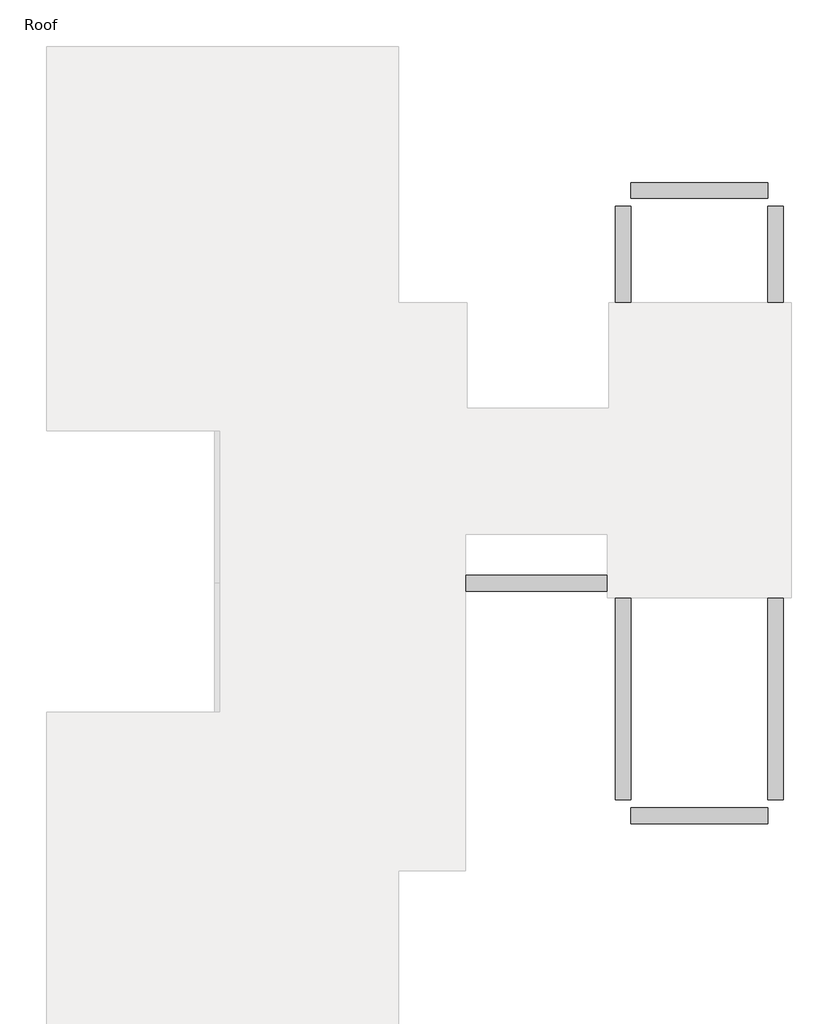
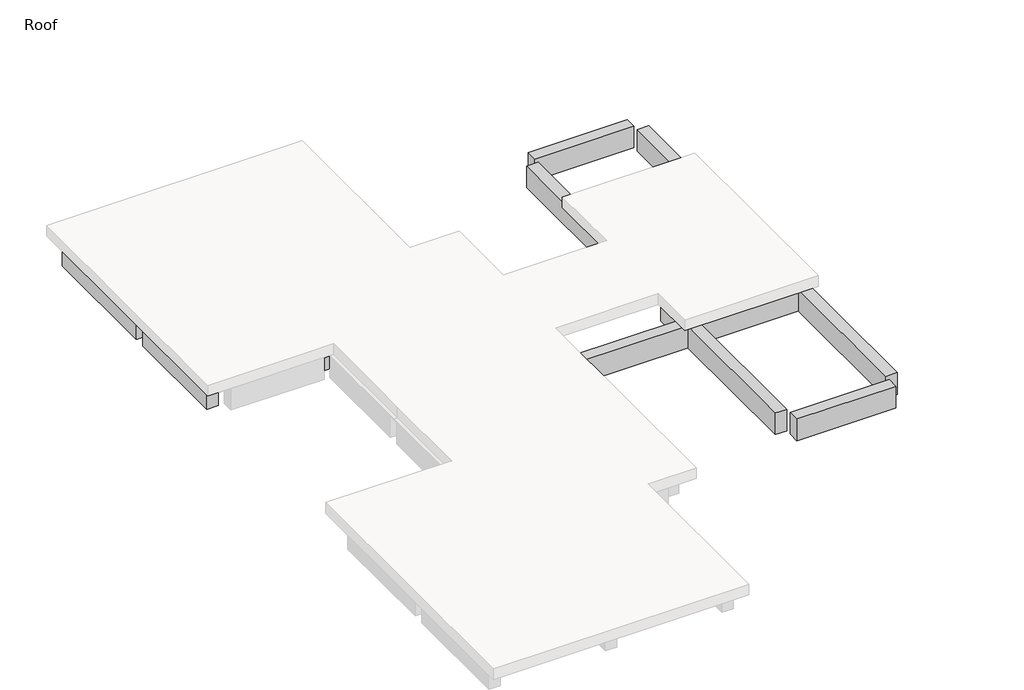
# One storey, part 2 of 2: 25 beams.
"""IFC4 building model written with IfcOpenShell, lengths in millimetres."""

import ifcopenshell
import ifcopenshell.guid

model = None  # the IFC model being written
_history = None  # IfcOwnerHistory: only IFC2X3 demands one
_inside = {}  # id of a spatial element -> (the spatial element, [elements in it])
_under = {}  # id of a project, library or spatial element -> (it, [spatial elements below it])
_declared = {}  # id of a project -> (the project, [libraries it declares])
_typed = {}  # id of a type object -> (the type object, [elements of that type])
_made_of = {}  # id of a material, layer set ... -> (it, [elements and type objects made of it])


def new_model(schema):
    """Start an empty IFC model of exactly this schema.

    Asked for "IFC4X3", IfcOpenShell would pick the latest addendum, in which some entities
    have other attributes; the version numbers below select the first issue.
    IFC2X3 requires an IfcOwnerHistory on every rooted entity: one is made here for all.
    """
    global model, _history
    if schema == "IFC4X3":
        model = ifcopenshell.file(schema_version=(4, 3, 0, 0))
    else:
        model = ifcopenshell.file(schema=schema)
    _inside.clear()
    _under.clear()
    _declared.clear()
    _typed.clear()
    _made_of.clear()
    _history = None
    if model.schema == "IFC2X3":
        org = make("IfcOrganization", Name="unknown")
        user = make(
            "IfcPersonAndOrganization",
            ThePerson=make("IfcPerson", FamilyName="unknown"),
            TheOrganization=org,
        )
        app = make(
            "IfcApplication",
            ApplicationDeveloper=org,
            Version="unknown",
            ApplicationFullName="unknown",
            ApplicationIdentifier="unknown",
        )
        _history = make(
            "IfcOwnerHistory",
            OwningUser=user,
            OwningApplication=app,
            ChangeAction="ADDED",
            CreationDate=0,
        )
    return model


def make(cls, **values):
    """One entity of the class cls with the attributes given. An attribute that is None is left unset."""
    return model.create_entity(
        cls, **{name: value for name, value in values.items() if value is not None}
    )


def rooted(cls, **values):
    """An entity with a GlobalId (a new one), such as an element, a storey or a relation."""
    return make(cls, GlobalId=ifcopenshell.guid.new(), OwnerHistory=_history, **values)


def si_unit(unit_type, name, prefix=None):
    """IfcSIUnit, for example si_unit("LENGTHUNIT", "METRE", prefix="MILLI")."""
    return make("IfcSIUnit", UnitType=unit_type, Prefix=prefix, Name=name)


def assignment(units):
    """IfcUnitAssignment: the units of a project."""
    return None if units is None else make("IfcUnitAssignment", Units=units)


def point(xyz):
    """IfcCartesianPoint."""
    return None if xyz is None else make("IfcCartesianPoint", Coordinates=xyz)


def direction(xyz):
    """IfcDirection."""
    return None if xyz is None else make("IfcDirection", DirectionRatios=xyz)


def frame(location, z_axis=None, x_axis=None):
    """IfcAxis2Placement3D, a coordinate frame: its origin and axes. An axis left out is left unset."""
    return make(
        "IfcAxis2Placement3D",
        Location=point(location),
        Axis=direction(z_axis),
        RefDirection=direction(x_axis),
    )


def origin():
    """The frame at (0, 0, 0) with its axes left unset."""
    return frame((0.0, 0.0, 0.0))


def place(relative_to, where):
    """IfcLocalPlacement: puts the frame where relative to a parent placement (None: the world)."""
    return make(
        "IfcLocalPlacement", PlacementRelTo=relative_to, RelativePlacement=where
    )


def context(
    kind, dimensions, precision=None, world=None, true_north=None, identifier=None
):
    """IfcGeometricRepresentationContext, for example the 3D "Model" context."""
    return make(
        "IfcGeometricRepresentationContext",
        ContextIdentifier=identifier,
        ContextType=kind,
        CoordinateSpaceDimension=dimensions,
        Precision=precision,
        WorldCoordinateSystem=world,
        TrueNorth=true_north,
    )


def project(units=None, contexts=None):
    """IfcProject with its units and contexts."""
    return rooted(
        "IfcProject",
        Name="project",
        RepresentationContexts=contexts,
        UnitsInContext=assignment(units),
    )


def spatial(cls, under=None, at=None, **own):
    """A site, building, storey or space (cls), placed at a placement, below another one or the project."""
    s = rooted(cls, ObjectPlacement=at, **own)
    if under is not None:
        _under.setdefault(under.id(), (under, []))[1].append(s)
    return s


def polyline(points):
    """IfcPolyline through the points."""
    return make("IfcPolyline", Points=[point(p) for p in points])


def outline(outer, holes=None, kind="AREA"):
    """IfcArbitraryClosedProfileDef: a profile drawn as a closed curve; with holes, ...WithVoids."""
    if holes is None:
        return make("IfcArbitraryClosedProfileDef", ProfileType=kind, OuterCurve=outer)
    return make(
        "IfcArbitraryProfileDefWithVoids",
        ProfileType=kind,
        OuterCurve=outer,
        InnerCurves=holes,
    )


def extrude(swept, where, along, depth):
    """IfcExtrudedAreaSolid: the profile swept, set in the frame where, extruded along a direction by depth."""
    return make(
        "IfcExtrudedAreaSolid",
        SweptArea=swept,
        Position=where,
        ExtrudedDirection=direction(along),
        Depth=depth,
    )


def faces_of(points, faces, orient=None, outer=None):
    """IfcFace entities. A face is a list of loops; a loop is a list of indices into points, from 0.

    orient and outer hold one flag for each loop. By default every Orientation is true, the
    first loop of a face is its IfcFaceOuterBound and the others are IfcFaceBound.
    """
    made = []
    for i, loops in enumerate(faces):
        bounds = []
        for j, loop in enumerate(loops):
            is_outer = j == 0 if outer is None else outer[i][j]
            bounds.append(
                make(
                    "IfcFaceOuterBound" if is_outer else "IfcFaceBound",
                    Bound=make("IfcPolyLoop", Polygon=[points[k] for k in loop]),
                    Orientation=True if orient is None else orient[i][j],
                )
            )
        made.append(make("IfcFace", Bounds=bounds))
    return made


def faceted_brep(points, faces, orient=None, outer=None, voids=None):
    """IfcFacetedBrep: a solid bounded by flat faces; with voids (closed shells), ...WithVoids."""
    shared = [point(p) for p in points]
    hull = make("IfcClosedShell", CfsFaces=faces_of(shared, faces, orient, outer))
    if voids is None:
        return make("IfcFacetedBrep", Outer=hull)
    return make(
        "IfcFacetedBrepWithVoids",
        Outer=hull,
        Voids=[
            make(cls, CfsFaces=faces_of(shared, fs, o, b)) for cls, fs, o, b in voids
        ],
    )


def shape(context_of_items, identifier, shape_type, items):
    """IfcShapeRepresentation: the items that make up one representation, for example the "Body"."""
    return make(
        "IfcShapeRepresentation",
        ContextOfItems=context_of_items,
        RepresentationIdentifier=identifier,
        RepresentationType=shape_type,
        Items=items,
    )


def made_of(thing, what):
    """Note that an element or type object is made of a material, layer set ...; save() writes the relation."""
    if what is not None:
        _made_of.setdefault(what.id(), (what, []))[1].append(thing)
    return thing


def element(
    cls,
    number,
    at=None,
    inside=None,
    cuts=None,
    type_object=None,
    material=None,
    context=None,
    identifier="Body",
    shape_type=None,
    held_by="IfcProductDefinitionShape",
    body=None,
    shapes=None,
    **own,
):
    """One element of the class cls, such as IfcWall. Its Tag is "e" and its number.

    at: its placement. inside: the storey or other place that contains it. cuts: it is an
    opening in that element (IfcRelVoidsElement). A single representation is given by context,
    identifier, shape_type and body (its items); several are given by shapes. held_by: the class
    of the entity that holds the representations. save() writes the other relations.
    """
    e = rooted(cls, Tag="e%d" % number, ObjectPlacement=at, **own)
    if body is not None:
        shapes = [shape(context, identifier, shape_type, body)]
    if shapes is not None:
        e.Representation = make(held_by, Representations=shapes)
    if inside is not None:
        _inside.setdefault(inside.id(), (inside, []))[1].append(e)
    if cuts is not None:
        rooted(
            "IfcRelVoidsElement", RelatingBuildingElement=cuts, RelatedOpeningElement=e
        )
    if type_object is not None:
        _typed.setdefault(type_object.id(), (type_object, []))[1].append(e)
    return made_of(e, material)


def aggregate(whole, parts):
    """IfcRelAggregates: a whole, such as a stair, and the parts it consists of."""
    return rooted("IfcRelAggregates", RelatingObject=whole, RelatedObjects=parts)


def save(model, path):
    """Write the relations noted so far, then the file.

    IfcRelAggregates (storeys below a building ...), IfcRelContainedInSpatialStructure (elements
    in a storey), IfcRelDefinesByType, IfcRelAssociatesMaterial and IfcRelDeclares: one each for
    every whole, place, type object, material and project.
    """
    for whole, parts in _under.values():
        aggregate(whole, parts)
    for where, things in _inside.values():
        rooted(
            "IfcRelContainedInSpatialStructure",
            RelatedElements=things,
            RelatingStructure=where,
        )
    for kind, things in _typed.values():
        rooted("IfcRelDefinesByType", RelatedObjects=things, RelatingType=kind)
    for what, things in _made_of.values():
        rooted("IfcRelAssociatesMaterial", RelatedObjects=things, RelatingMaterial=what)
    for by, libraries in _declared.values():
        rooted("IfcRelDeclares", RelatingContext=by, RelatedDefinitions=libraries)
    model.write(path)


model = new_model("IFC4")

# Units and contexts
model_context = context("Model", 3, world=origin())
ifc_project = project(units=[si_unit("LENGTHUNIT", "METRE", prefix="MILLI")], contexts=[model_context])

# Site, building, storey
site = spatial("IfcSite", under=ifc_project)
building = spatial("IfcBuilding", under=site)
storey = spatial("IfcBuildingStorey", under=building, Name="Roof", Elevation=7620.0)

# Beams
placement = place(None, origin())
element("IfcBeam", 1, ObjectType="M_Concrete-Rectangular Beam : 300 x 600mm", at=placement, inside=storey, context=model_context, shape_type="Brep", body=[
    faceted_brep([(-9783.3472303, 14876.016665, 7320.0), (-12831.3472303, 14876.016665, 7320.0), (-12831.3472303, 14726.016665, 7320.0), (-12831.3472303, 14576.016665, 7320.0), (-12681.3472303, 14576.016665, 7320.0), (-9933.3472303, 14576.016665, 7320.0), (-9783.3472303, 14576.016665, 7320.0), (-9783.3472303, 14726.016665, 7320.0), (-12831.3472303, 14576.016665, 7315.2), (-12531.3472303, 14576.016665, 7315.2), (-12531.3472303, 14576.016665, 6720.0), (-10083.3472303, 14576.016665, 6720.0), (-10083.3472303, 14576.016665, 7315.2), (-9783.3472303, 14576.016665, 7315.2), (-12531.3472303, 14876.016665, 6720.0), (-10083.3472303, 14876.016665, 6720.0), (-9783.3472303, 14876.016665, 7315.2), (-10083.3472303, 14876.016665, 7315.2), (-12531.3472303, 14876.016665, 7315.2), (-12831.3472303, 14876.016665, 7315.2), (-12831.3472303, 14726.016665, 7315.2), (-9783.3472303, 14726.016665, 7315.2)], [[[0, 1, 2, 3, 4, 5, 6, 7]], [[6, 5, 4, 3, 8, 9, 10, 11, 12, 13]], [[10, 14, 15, 11]], [[1, 0, 16, 17, 15, 14, 18, 19]], [[9, 18, 14, 10]], [[18, 9, 8, 20, 19]], [[17, 12, 11, 15]], [[12, 17, 16, 21, 13]], [[3, 2, 1, 19, 20, 8]], [[0, 7, 6, 13, 21, 16]]]),
])
element("IfcBeam", 2, ObjectType="M_Concrete-Rectangular Beam : 300 x 600mm", at=placement, inside=storey, context=model_context, shape_type="Brep", body=[
    faceted_brep([(-6735.3472303, 14876.016665, 7320.0), (-9783.3472303, 14876.016665, 7320.0), (-9783.3472303, 14726.016665, 7320.0), (-9633.3472303, 14726.016665, 7320.0), (-9633.3472303, 14576.016665, 7320.0), (-6885.3472303, 14576.016665, 7320.0), (-6735.3472303, 14576.016665, 7320.0), (-6735.3472303, 14726.016665, 7320.0), (-9483.3472303, 14576.016665, 7315.2), (-9483.3472303, 14576.016665, 6720.0), (-7035.3472303, 14576.016665, 6720.0), (-7035.3472303, 14576.016665, 7315.2), (-6735.3472303, 14576.016665, 7315.2), (-9633.3472303, 14576.016665, 7315.2), (-9483.3472303, 14876.016665, 6720.0), (-7035.3472303, 14876.016665, 6720.0), (-6735.3472303, 14876.016665, 7315.2), (-7035.3472303, 14876.016665, 7315.2), (-9483.3472303, 14876.016665, 7315.2), (-9783.3472303, 14876.016665, 7315.2), (-9633.3472303, 14726.016665, 7315.2), (-9783.3472303, 14726.016665, 7315.2), (-6735.3472303, 14726.016665, 7315.2)], [[[0, 1, 2, 3, 4, 5, 6, 7]], [[8, 9, 10, 11, 12, 6, 5, 4, 13]], [[9, 14, 15, 10]], [[1, 0, 16, 17, 15, 14, 18, 19]], [[8, 18, 14, 9]], [[18, 8, 13, 20, 21, 19]], [[17, 11, 10, 15]], [[11, 17, 16, 22, 12]], [[3, 20, 13, 4]], [[1, 19, 21, 2]], [[0, 7, 6, 12, 22, 16]], [[20, 3, 2, 21]]]),
])
element("IfcBeam", 3, ObjectType="M_Concrete-Rectangular Beam : 300 x 600mm", at=placement, inside=storey, context=model_context, shape_type="Brep", body=[
    faceted_brep([(-6585.3472303, 11069.016665, 7320.0), (-6585.3472303, 14726.016665, 7320.0), (-6735.3472303, 14726.016665, 7320.0), (-6735.3472303, 14576.016665, 7320.0), (-6885.3472303, 14576.016665, 7320.0), (-6885.3472303, 11219.016665, 7320.0), (-6885.3472303, 11069.016665, 7320.0), (-6735.3472303, 11069.016665, 7320.0), (-6885.3472303, 14576.016665, 6720.0), (-6885.3472303, 11219.016665, 6720.0), (-6885.3472303, 11219.016665, 7315.2), (-6885.3472303, 11069.016665, 7315.2), (-6585.3472303, 14576.016665, 6720.0), (-6585.3472303, 11219.016665, 6720.0), (-6585.3472303, 11069.016665, 7315.2), (-6585.3472303, 11219.016665, 7315.2), (-6585.3472303, 14576.016665, 7315.2), (-6585.3472303, 14726.016665, 7315.2), (-6735.3472303, 14576.016665, 7315.2), (-6735.3472303, 14726.016665, 7315.2), (-6735.3472303, 11069.016665, 7315.2)], [[[0, 1, 2, 3, 4, 5, 6, 7]], [[6, 5, 4, 8, 9, 10, 11]], [[8, 12, 13, 9]], [[1, 0, 14, 15, 13, 12, 16, 17]], [[4, 3, 18, 16, 12, 8]], [[16, 18, 19, 17]], [[15, 10, 9, 13]], [[10, 15, 14, 20, 11]], [[2, 1, 17, 19]], [[0, 7, 6, 11, 20, 14]], [[3, 2, 19, 18]]]),
])
element("IfcBeam", 4, ObjectType="M_Concrete-Rectangular Beam : 300 x 600mm", at=placement, inside=storey, context=model_context, shape_type="Brep", body=[
    faceted_brep([(-6585.3472303, 9700.016665, 7320.0), (-6585.3472303, 10000.016665, 7320.0), (-6585.3472303, 11069.016665, 7320.0), (-6735.3472303, 11069.016665, 7320.0), (-6735.3472303, 10919.016665, 7320.0), (-6885.3472303, 10919.016665, 7320.0), (-6885.3472303, 9700.016665, 7320.0), (-6885.3472303, 9700.016665, 6720.0), (-6885.3472303, 10919.016665, 6720.0), (-6585.3472303, 9700.016665, 6720.0), (-6585.3472303, 10919.016665, 6720.0), (-6585.3472303, 10000.016665, 6720.0), (-6585.3472303, 10919.016665, 7315.2), (-6585.3472303, 11069.016665, 7315.2), (-6735.3472303, 11069.016665, 7315.2), (-6735.3472303, 10919.016665, 7315.2)], [[[0, 1, 2, 3, 4, 5, 6]], [[7, 6, 5, 8]], [[9, 7, 8, 10, 11]], [[2, 1, 0, 9, 11, 10, 12, 13]], [[2, 13, 14, 3]], [[0, 6, 7, 9]], [[5, 4, 15, 12, 10, 8]], [[13, 12, 15, 14]], [[15, 4, 3, 14]]]),
])
element("IfcBeam", 5, ObjectType="M_Concrete-Rectangular Beam : 300 x 600mm", at=placement, inside=storey, context=model_context, shape_type="Brep", body=[
    faceted_brep([(-6585.3472303, 10000.016665, 7320.0), (-6585.3472303, 9700.016665, 7320.0), (-5666.3472303, 9700.016665, 7320.0), (-5516.3472303, 9700.016665, 7320.0), (-5516.3472303, 9850.016665, 7320.0), (-5516.3472303, 10000.016665, 7320.0), (-6585.3472303, 9700.016665, 6720.0), (-5816.3472303, 9700.016665, 6720.0), (-5816.3472303, 9700.016665, 7315.2), (-5516.3472303, 9700.016665, 7315.2), (-6585.3472303, 10000.016665, 6720.0), (-5816.3472303, 10000.016665, 6720.0), (-5516.3472303, 10000.016665, 7315.2), (-5816.3472303, 10000.016665, 7315.2), (-5516.3472303, 9850.016665, 7315.2)], [[[0, 1, 2, 3, 4, 5]], [[3, 2, 1, 6, 7, 8, 9]], [[6, 10, 11, 7]], [[10, 0, 5, 12, 13, 11]], [[1, 0, 10, 6]], [[13, 8, 7, 11]], [[8, 13, 12, 14, 9]], [[5, 4, 3, 9, 14, 12]]]),
])
element("IfcBeam", 6, ObjectType="M_Concrete-Rectangular Beam : 300 x 600mm", at=placement, inside=storey, context=model_context, shape_type="Brep", body=[
    faceted_brep([(-5366.3472303, 7869.016665, 7320.0), (-5366.3472303, 8019.016665, 7320.0), (-5366.3472303, 9850.016665, 7320.0), (-5516.3472303, 9850.016665, 7320.0), (-5516.3472303, 9700.016665, 7320.0), (-5666.3472303, 9700.016665, 7320.0), (-5666.3472303, 8019.016665, 7320.0), (-5666.3472303, 7869.016665, 7320.0), (-5516.3472303, 7869.016665, 7320.0), (-5666.3472303, 9700.016665, 6720.0), (-5666.3472303, 8019.016665, 6720.0), (-5666.3472303, 8019.016665, 7315.2), (-5666.3472303, 7869.016665, 7315.2), (-5366.3472303, 9700.016665, 6720.0), (-5366.3472303, 8019.016665, 6720.0), (-5366.3472303, 7869.016665, 7315.2), (-5366.3472303, 8019.016665, 7315.2), (-5366.3472303, 9700.016665, 7315.2), (-5366.3472303, 9850.016665, 7315.2), (-5516.3472303, 9700.016665, 7315.2), (-5516.3472303, 9850.016665, 7315.2), (-5516.3472303, 7869.016665, 7315.2)], [[[0, 1, 2, 3, 4, 5, 6, 7, 8]], [[7, 6, 5, 9, 10, 11, 12]], [[9, 13, 14, 10]], [[2, 1, 0, 15, 16, 14, 13, 17, 18]], [[5, 4, 19, 17, 13, 9]], [[17, 19, 20, 18]], [[16, 11, 10, 14]], [[11, 16, 15, 21, 12]], [[3, 2, 18, 20]], [[0, 8, 7, 12, 21, 15]], [[4, 3, 20, 19]]]),
])
element("IfcBeam", 7, ObjectType="M_Concrete-Rectangular Beam : 300 x 600mm", at=placement, inside=storey, context=model_context, shape_type="Brep", body=[
    faceted_brep([(-5366.3472303, 4821.016665, 7320.0), (-5366.3472303, 4971.016665, 7320.0), (-5366.3472303, 7719.016665, 7320.0), (-5366.3472303, 7869.016665, 7320.0), (-5516.3472303, 7869.016665, 7320.0), (-5516.3472303, 7719.016665, 7320.0), (-5666.3472303, 7719.016665, 7320.0), (-5666.3472303, 4971.016665, 7320.0), (-5666.3472303, 4821.016665, 7320.0), (-5516.3472303, 4821.016665, 7320.0), (-5666.3472303, 4971.016665, 6720.0), (-5666.3472303, 4971.016665, 7315.2), (-5666.3472303, 4821.016665, 7315.2), (-5666.3472303, 7719.016665, 6720.0), (-5366.3472303, 4971.016665, 6720.0), (-5366.3472303, 7719.016665, 6720.0), (-5366.3472303, 4821.016665, 7315.2), (-5366.3472303, 4971.016665, 7315.2), (-5366.3472303, 7719.016665, 7315.2), (-5366.3472303, 7869.016665, 7315.2), (-5516.3472303, 7719.016665, 7315.2), (-5516.3472303, 7869.016665, 7315.2), (-5516.3472303, 4821.016665, 7315.2)], [[[0, 1, 2, 3, 4, 5, 6, 7, 8, 9]], [[10, 11, 12, 8, 7, 6, 13]], [[14, 10, 13, 15]], [[3, 2, 1, 0, 16, 17, 14, 15, 18, 19]], [[6, 5, 20, 18, 15, 13]], [[19, 18, 20, 21]], [[17, 11, 10, 14]], [[11, 17, 16, 22, 12]], [[3, 19, 21, 4]], [[0, 9, 8, 12, 22, 16]], [[20, 5, 4, 21]]]),
])
element("IfcBeam", 8, ObjectType="M_Concrete-Rectangular Beam : 300 x 600mm", at=placement, inside=storey, context=model_context, shape_type="Brep", body=[
    faceted_brep([(-9783.3472303, 4671.016665, 7320.0), (-9633.3472303, 4671.016665, 7320.0), (-5666.3472303, 4671.016665, 7320.0), (-5516.3472303, 4671.016665, 7320.0), (-5516.3472303, 4821.016665, 7320.0), (-5666.3472303, 4821.016665, 7320.0), (-5666.3472303, 4971.016665, 7320.0), (-9633.3472303, 4971.016665, 7320.0), (-9783.3472303, 4971.016665, 7320.0), (-9783.3472303, 4821.016665, 7320.0), (-9483.3472303, 4971.016665, 6720.0), (-9483.3472303, 4971.016665, 7315.2), (-9783.3472303, 4971.016665, 7315.2), (-5666.3472303, 4971.016665, 7315.2), (-5816.3472303, 4971.016665, 7315.2), (-5816.3472303, 4971.016665, 6720.0), (-9483.3472303, 4671.016665, 6720.0), (-5816.3472303, 4671.016665, 6720.0), (-9783.3472303, 4671.016665, 7315.2), (-9483.3472303, 4671.016665, 7315.2), (-5816.3472303, 4671.016665, 7315.2), (-5516.3472303, 4671.016665, 7315.2), (-5666.3472303, 4821.016665, 7315.2), (-9783.3472303, 4821.016665, 7315.2), (-5516.3472303, 4821.016665, 7315.2)], [[[0, 1, 2, 3, 4, 5, 6, 7, 8, 9]], [[10, 11, 12, 8, 7, 6, 13, 14, 15]], [[16, 10, 15, 17]], [[3, 2, 1, 0, 18, 19, 16, 17, 20, 21]], [[6, 5, 22, 13]], [[19, 11, 10, 16]], [[11, 19, 18, 23, 12]], [[14, 20, 17, 15]], [[20, 14, 13, 22, 24, 21]], [[0, 9, 8, 12, 23, 18]], [[4, 3, 21, 24]], [[5, 4, 24, 22]]]),
])
element("IfcBeam", 9, ObjectType="M_Concrete-Rectangular Beam : 300 x 600mm", at=placement, inside=storey, context=model_context, shape_type="Brep", body=[
    faceted_brep([(-5666.3472303, 7869.016665, 7320.0), (-5666.3472303, 8019.016665, 7320.0), (-9633.3472303, 8019.016665, 7320.0), (-9783.3472303, 8019.016665, 7320.0), (-9783.3472303, 7869.016665, 7320.0), (-9633.3472303, 7869.016665, 7320.0), (-9633.3472303, 7719.016665, 7320.0), (-5666.3472303, 7719.016665, 7320.0), (-5516.3472303, 7719.016665, 7320.0), (-5516.3472303, 7869.016665, 7320.0), (-9633.3472303, 7719.016665, 7315.2), (-9483.3472303, 7719.016665, 7315.2), (-9483.3472303, 7719.016665, 6720.0), (-5816.3472303, 7719.016665, 6720.0), (-5816.3472303, 7719.016665, 7315.2), (-5516.3472303, 7719.016665, 7315.2), (-9483.3472303, 8019.016665, 6720.0), (-5816.3472303, 8019.016665, 6720.0), (-9483.3472303, 8019.016665, 7315.2), (-9783.3472303, 8019.016665, 7315.2), (-5666.3472303, 8019.016665, 7315.2), (-5816.3472303, 8019.016665, 7315.2), (-5666.3472303, 7869.016665, 7315.2), (-9633.3472303, 7869.016665, 7315.2), (-9783.3472303, 7869.016665, 7315.2), (-5516.3472303, 7869.016665, 7315.2)], [[[0, 1, 2, 3, 4, 5, 6, 7, 8, 9]], [[6, 10, 11, 12, 13, 14, 15, 8, 7]], [[12, 16, 17, 13]], [[16, 18, 19, 3, 2, 1, 20, 21, 17]], [[1, 0, 22, 20]], [[6, 5, 23, 10]], [[11, 18, 16, 12]], [[18, 11, 10, 23, 24, 19]], [[21, 14, 13, 17]], [[14, 21, 20, 22, 25, 15]], [[4, 3, 19, 24]], [[9, 8, 15, 25]], [[0, 9, 25, 22]], [[5, 4, 24, 23]]]),
])
element("IfcBeam", 10, ObjectType="M_Concrete-Rectangular Beam : 300 x 600mm", at=placement, inside=storey, context=model_context, shape_type="Brep", body=[
    faceted_brep([(-9933.3472303, 11069.016665, 7320.0), (-9933.3472303, 10919.016665, 7320.0), (-9933.3472303, 8019.016665, 7320.0), (-9933.3472303, 7869.016665, 7320.0), (-9783.3472303, 7869.016665, 7320.0), (-9783.3472303, 8019.016665, 7320.0), (-9633.3472303, 8019.016665, 7320.0), (-9633.3472303, 10919.016665, 7320.0), (-9633.3472303, 11069.016665, 7320.0), (-9783.3472303, 11069.016665, 7320.0), (-9633.3472303, 10919.016665, 6720.0), (-9633.3472303, 10919.016665, 7315.2), (-9633.3472303, 11069.016665, 7315.2), (-9633.3472303, 8019.016665, 6720.0), (-9933.3472303, 10919.016665, 6720.0), (-9933.3472303, 8019.016665, 6720.0), (-9933.3472303, 11069.016665, 7315.2), (-9933.3472303, 10919.016665, 7315.2), (-9933.3472303, 8019.016665, 7315.2), (-9933.3472303, 7869.016665, 7315.2), (-9783.3472303, 8019.016665, 7315.2), (-9783.3472303, 11069.016665, 7315.2), (-9783.3472303, 7869.016665, 7315.2)], [[[0, 1, 2, 3, 4, 5, 6, 7, 8, 9]], [[10, 11, 12, 8, 7, 6, 13]], [[14, 10, 13, 15]], [[3, 2, 1, 0, 16, 17, 14, 15, 18, 19]], [[6, 5, 20, 18, 15, 13]], [[17, 11, 10, 14]], [[11, 17, 16, 21, 12]], [[18, 20, 22, 19]], [[0, 9, 8, 12, 21, 16]], [[4, 3, 19, 22]], [[5, 4, 22, 20]]]),
])
element("IfcBeam", 11, ObjectType="M_Concrete-Rectangular Beam : 300 x 600mm", at=placement, inside=storey, context=model_context, shape_type="Brep", body=[
    faceted_brep([(-6885.3472303, 11069.016665, 7320.0), (-6885.3472303, 11219.016665, 7320.0), (-9633.3472303, 11219.016665, 7320.0), (-9783.3472303, 11219.016665, 7320.0), (-9783.3472303, 11069.016665, 7320.0), (-9633.3472303, 11069.016665, 7320.0), (-9633.3472303, 10919.016665, 7320.0), (-6885.3472303, 10919.016665, 7320.0), (-6735.3472303, 10919.016665, 7320.0), (-6735.3472303, 11069.016665, 7320.0), (-9633.3472303, 10919.016665, 7315.2), (-9483.3472303, 10919.016665, 7315.2), (-9483.3472303, 10919.016665, 6720.0), (-7035.3472303, 10919.016665, 6720.0), (-7035.3472303, 10919.016665, 7315.2), (-6735.3472303, 10919.016665, 7315.2), (-9483.3472303, 11219.016665, 6720.0), (-7035.3472303, 11219.016665, 6720.0), (-9483.3472303, 11219.016665, 7315.2), (-9783.3472303, 11219.016665, 7315.2), (-6885.3472303, 11219.016665, 7315.2), (-7035.3472303, 11219.016665, 7315.2), (-6885.3472303, 11069.016665, 7315.2), (-9633.3472303, 11069.016665, 7315.2), (-9783.3472303, 11069.016665, 7315.2), (-6735.3472303, 11069.016665, 7315.2)], [[[0, 1, 2, 3, 4, 5, 6, 7, 8, 9]], [[6, 10, 11, 12, 13, 14, 15, 8, 7]], [[12, 16, 17, 13]], [[16, 18, 19, 3, 2, 1, 20, 21, 17]], [[1, 0, 22, 20]], [[6, 5, 23, 10]], [[11, 18, 16, 12]], [[18, 11, 10, 23, 24, 19]], [[21, 14, 13, 17]], [[14, 21, 20, 22, 25, 15]], [[4, 3, 19, 24]], [[9, 8, 15, 25]], [[0, 9, 25, 22]], [[5, 4, 24, 23]]]),
])
element("IfcBeam", 12, ObjectType="M_Concrete-Rectangular Beam : 300 x 600mm", at=placement, inside=storey, context=model_context, shape_type="Brep", body=[
    faceted_brep([(-9783.3472303, 14576.016665, 7320.0), (-9933.3472303, 14576.016665, 7320.0), (-9933.3472303, 11219.016665, 7320.0), (-9933.3472303, 11069.016665, 7320.0), (-9783.3472303, 11069.016665, 7320.0), (-9783.3472303, 11219.016665, 7320.0), (-9633.3472303, 11219.016665, 7320.0), (-9633.3472303, 14576.016665, 7320.0), (-9633.3472303, 14726.016665, 7320.0), (-9783.3472303, 14726.016665, 7320.0), (-9633.3472303, 11219.016665, 6720.0), (-9633.3472303, 14576.016665, 6720.0), (-9633.3472303, 14576.016665, 7315.2), (-9633.3472303, 14726.016665, 7315.2), (-9933.3472303, 11219.016665, 6720.0), (-9933.3472303, 14576.016665, 6720.0), (-9933.3472303, 11219.016665, 7315.2), (-9933.3472303, 11069.016665, 7315.2), (-9783.3472303, 14576.016665, 7315.2), (-9783.3472303, 11219.016665, 7315.2), (-9783.3472303, 14726.016665, 7315.2), (-9783.3472303, 11069.016665, 7315.2)], [[[0, 1, 2, 3, 4, 5, 6, 7, 8, 9]], [[8, 7, 6, 10, 11, 12, 13]], [[10, 14, 15, 11]], [[3, 2, 1, 15, 14, 16, 17]], [[1, 0, 18, 12, 11, 15]], [[6, 5, 19, 16, 14, 10]], [[12, 18, 20, 13]], [[16, 19, 21, 17]], [[9, 8, 13, 20]], [[4, 3, 17, 21]], [[0, 9, 20, 18]], [[5, 4, 21, 19]]]),
])
element("IfcBeam", 13, ObjectType="M_Concrete-Rectangular Beam : 300 x 600mm", at=placement, inside=storey, context=model_context, shape_type="Brep", body=[
    faceted_brep([(-12981.3472303, 14726.016665, 7320.0), (-12981.3472303, 11069.016665, 7320.0), (-12831.3472303, 11069.016665, 7320.0), (-12681.3472303, 11069.016665, 7320.0), (-12681.3472303, 11219.016665, 7320.0), (-12681.3472303, 14576.016665, 7320.0), (-12831.3472303, 14576.016665, 7320.0), (-12831.3472303, 14726.016665, 7320.0), (-12981.3472303, 14726.016665, 7315.2), (-12981.3472303, 14576.016665, 7315.2), (-12981.3472303, 14576.016665, 6720.0), (-12981.3472303, 11219.016665, 6720.0), (-12981.3472303, 11219.016665, 7315.2), (-12981.3472303, 11069.016665, 7315.2), (-12681.3472303, 14576.016665, 6720.0), (-12681.3472303, 11219.016665, 6720.0), (-12681.3472303, 11069.016665, 7315.2), (-12681.3472303, 11219.016665, 7315.2), (-12831.3472303, 14576.016665, 7315.2), (-12831.3472303, 14726.016665, 7315.2), (-12831.3472303, 11069.016665, 7315.2)], [[[0, 1, 2, 3, 4, 5, 6, 7]], [[1, 0, 8, 9, 10, 11, 12, 13]], [[10, 14, 15, 11]], [[5, 4, 3, 16, 17, 15, 14]], [[6, 5, 14, 10, 9, 18]], [[18, 9, 8, 19]], [[17, 12, 11, 15]], [[12, 17, 16, 20, 13]], [[0, 7, 19, 8]], [[3, 2, 1, 13, 20, 16]], [[7, 6, 18, 19]]]),
])
element("IfcBeam", 14, ObjectType="M_Concrete-Rectangular Beam : 300 x 600mm", at=placement, inside=storey, context=model_context, shape_type="Brep", body=[
    faceted_brep([(-12681.3472303, 11219.016665, 7320.0), (-12681.3472303, 11069.016665, 7320.0), (-12831.3472303, 11069.016665, 7320.0), (-12831.3472303, 10919.016665, 7320.0), (-12681.3472303, 10919.016665, 7320.0), (-9933.3472303, 10919.016665, 7320.0), (-9933.3472303, 11069.016665, 7320.0), (-9933.3472303, 11219.016665, 7320.0), (-12531.3472303, 10919.016665, 7315.2), (-12531.3472303, 10919.016665, 6720.0), (-10083.3472303, 10919.016665, 6720.0), (-10083.3472303, 10919.016665, 7315.2), (-9933.3472303, 10919.016665, 7315.2), (-12831.3472303, 10919.016665, 7315.2), (-12531.3472303, 11219.016665, 6720.0), (-10083.3472303, 11219.016665, 6720.0), (-12681.3472303, 11219.016665, 7315.2), (-9933.3472303, 11219.016665, 7315.2), (-10083.3472303, 11219.016665, 7315.2), (-12531.3472303, 11219.016665, 7315.2), (-9933.3472303, 11069.016665, 7315.2), (-12681.3472303, 11069.016665, 7315.2), (-12831.3472303, 11069.016665, 7315.2)], [[[0, 1, 2, 3, 4, 5, 6, 7]], [[8, 9, 10, 11, 12, 5, 4, 3, 13]], [[9, 14, 15, 10]], [[16, 0, 7, 17, 18, 15, 14, 19]], [[7, 6, 5, 12, 20, 17]], [[1, 0, 16, 21]], [[8, 19, 14, 9]], [[19, 8, 13, 22, 21, 16]], [[18, 11, 10, 15]], [[11, 18, 17, 20, 12]], [[3, 2, 22, 13]], [[2, 1, 21, 22]]]),
])
element("IfcBeam", 15, ObjectType="M_Concrete-Rectangular Beam : 300 x 600mm", at=placement, inside=storey, context=model_context, shape_type="Brep", body=[
    faceted_brep([(-12981.3472303, 11069.016665, 7320.0), (-12981.3472303, 7869.016665, 7320.0), (-12831.3472303, 7869.016665, 7320.0), (-12681.3472303, 7869.016665, 7320.0), (-12681.3472303, 8019.016665, 7320.0), (-12681.3472303, 10919.016665, 7320.0), (-12831.3472303, 10919.016665, 7320.0), (-12831.3472303, 11069.016665, 7320.0), (-12981.3472303, 11069.016665, 7315.2), (-12981.3472303, 10919.016665, 7315.2), (-12981.3472303, 10919.016665, 6720.0), (-12981.3472303, 8019.016665, 6720.0), (-12981.3472303, 8019.016665, 7315.2), (-12981.3472303, 7869.016665, 7315.2), (-12681.3472303, 10919.016665, 6720.0), (-12681.3472303, 8019.016665, 6720.0), (-12681.3472303, 7869.016665, 7315.2), (-12681.3472303, 8019.016665, 7315.2), (-12831.3472303, 10919.016665, 7315.2), (-12831.3472303, 11069.016665, 7315.2), (-12831.3472303, 7869.016665, 7315.2)], [[[0, 1, 2, 3, 4, 5, 6, 7]], [[1, 0, 8, 9, 10, 11, 12, 13]], [[10, 14, 15, 11]], [[5, 4, 3, 16, 17, 15, 14]], [[6, 5, 14, 10, 9, 18]], [[18, 9, 8, 19]], [[17, 12, 11, 15]], [[12, 17, 16, 20, 13]], [[0, 7, 19, 8]], [[3, 2, 1, 13, 20, 16]], [[7, 6, 18, 19]]]),
])
element("IfcBeam", 16, ObjectType="M_Concrete-Rectangular Beam : 300 x 600mm", at=placement, inside=storey, context=model_context, shape_type="Brep", body=[
    faceted_brep([(-2313.3472303, 8019.016665, 7320.0), (-5366.3472303, 8019.016665, 7320.0), (-5366.3472303, 7869.016665, 7320.0), (-5366.3472303, 7719.016665, 7320.0), (-2313.3472303, 7719.016665, 7320.0), (-5366.3472303, 7719.016665, 7315.2), (-5216.3472303, 7719.016665, 7315.2), (-5216.3472303, 7719.016665, 6720.0), (-2313.3472303, 7719.016665, 6720.0), (-2313.3472303, 8019.016665, 6720.0), (-5216.3472303, 8019.016665, 6720.0), (-5216.3472303, 8019.016665, 7315.2), (-5366.3472303, 8019.016665, 7315.2), (-5366.3472303, 7869.016665, 7315.2)], [[[0, 1, 2, 3, 4]], [[4, 3, 5, 6, 7, 8]], [[9, 8, 7, 10]], [[1, 0, 9, 10, 11, 12]], [[0, 4, 8, 9]], [[3, 2, 1, 12, 13, 5]], [[6, 11, 10, 7]], [[11, 6, 5, 13, 12]]]),
])
element("IfcBeam", 17, ObjectType="M_Concrete-Rectangular Beam : 300 x 600mm", at=placement, inside=storey, context=model_context, shape_type="Brep", body=[
    faceted_brep([(-5366.3472303, 4971.016665, 7320.0), (-5366.3472303, 4821.016665, 7320.0), (-5366.3472303, 4671.016665, 7320.0), (-2313.3472303, 4671.016665, 7320.0), (-2313.3472303, 4971.016665, 7320.0), (-5216.3472303, 4671.016665, 7315.2), (-5216.3472303, 4671.016665, 6720.0), (-2313.3472303, 4671.016665, 6720.0), (-5366.3472303, 4671.016665, 7315.2), (-5216.3472303, 4971.016665, 6720.0), (-2313.3472303, 4971.016665, 6720.0), (-5366.3472303, 4971.016665, 7315.2), (-5216.3472303, 4971.016665, 7315.2), (-5366.3472303, 4821.016665, 7315.2)], [[[0, 1, 2, 3, 4]], [[5, 6, 7, 3, 2, 8]], [[6, 9, 10, 7]], [[11, 0, 4, 10, 9, 12]], [[0, 11, 13, 8, 2, 1]], [[5, 12, 9, 6]], [[12, 5, 8, 13, 11]], [[4, 3, 7, 10]]]),
])
element("IfcBeam", 18, ObjectType="M_Concrete-Rectangular Beam : 300 x 600mm", at=placement, inside=storey, context=model_context, shape_type="SweptSolid", body=[
    extrude(outline(polyline([(-2013.3472303, 7719.016665), (-2013.3472303, 8019.016665), (582.6527697, 8019.016665), (582.6527697, 7719.016665), (-2013.3472303, 7719.016665)])), frame((0.0, 0.0, 6720.0), z_axis=(0.0, 0.0, 1.0), x_axis=(1.0, 0.0, 0.0)), (0.0, 0.0, 1.0), 600.0),
])
element("IfcBeam", 19, ObjectType="M_Concrete-Rectangular Beam : 300 x 600mm", at=placement, inside=storey, context=model_context, shape_type="SweptSolid", body=[
    extrude(outline(polyline([(-2013.3472303, 4671.016665), (-2013.3472303, 4971.016665), (582.6527697, 4971.016665), (582.6527697, 4671.016665), (-2013.3472303, 4671.016665)])), frame((0.0, 0.0, 6720.0), z_axis=(0.0, 0.0, 1.0), x_axis=(1.0, 0.0, 0.0)), (0.0, 0.0, 1.0), 600.0),
])
element("IfcBeam", 20, ObjectType="M_Concrete-Rectangular Beam : 300 x 600mm", at=placement, inside=storey, context=model_context, shape_type="Brep", body=[
    faceted_brep([(-2313.3472303, 701.016665, 7320.0), (-2013.3472303, 701.016665, 7320.0), (-2013.3472303, 4671.016665, 7320.0), (-2013.3472303, 4971.016665, 7320.0), (-2013.3472303, 5890.016665, 7320.0), (-2313.3472303, 5890.016665, 7320.0), (-2313.3472303, 4971.016665, 7320.0), (-2313.3472303, 4671.016665, 7320.0), (-2013.3472303, 701.016665, 6720.0), (-2013.3472303, 4671.016665, 6720.0), (-2013.3472303, 4971.016665, 6720.0), (-2013.3472303, 5890.016665, 6720.0), (-2313.3472303, 701.016665, 6720.0), (-2313.3472303, 4671.016665, 6720.0), (-2313.3472303, 4971.016665, 6720.0), (-2313.3472303, 5890.016665, 6720.0)], [[[0, 1, 2, 3, 4, 5, 6, 7]], [[1, 8, 9, 10, 11, 4, 3, 2]], [[8, 12, 13, 14, 15, 11, 10, 9]], [[12, 0, 7, 6, 5, 15, 14, 13]], [[1, 0, 12, 8]], [[5, 4, 11, 15]]]),
])
element("IfcBeam", 21, ObjectType="M_Concrete-Rectangular Beam : 300 x 600mm", at=placement, inside=storey, context=model_context, shape_type="SweptSolid", body=[
    extrude(outline(polyline([(-2013.3472303, 8169.016665), (-2313.3472303, 8169.016665), (-2313.3472303, 11988.016665), (-2013.3472303, 11988.016665), (-2013.3472303, 8169.016665)])), frame((0.0, 0.0, 6720.0), z_axis=(0.0, 0.0, 1.0), x_axis=(1.0, 0.0, 0.0)), (0.0, 0.0, 1.0), 600.0),
])
element("IfcBeam", 22, ObjectType="M_Concrete-Rectangular Beam : 300 x 600mm", at=placement, inside=storey, context=model_context, shape_type="SweptSolid", body=[
    extrude(outline(polyline([(-2013.3472303, 12138.016665), (-2013.3472303, 12438.016665), (582.6527697, 12438.016665), (582.6527697, 12138.016665), (-2013.3472303, 12138.016665)])), frame((0.0, 0.0, 6720.0), z_axis=(0.0, 0.0, 1.0), x_axis=(1.0, 0.0, 0.0)), (0.0, 0.0, 1.0), 600.0),
])
element("IfcBeam", 23, ObjectType="M_Concrete-Rectangular Beam : 300 x 600mm", at=placement, inside=storey, context=model_context, shape_type="SweptSolid", body=[
    extrude(outline(polyline([(882.6527697, 8169.016665), (582.6527697, 8169.016665), (582.6527697, 11988.016665), (882.6527697, 11988.016665), (882.6527697, 8169.016665)])), frame((0.0, 0.0, 6720.0), z_axis=(0.0, 0.0, 1.0), x_axis=(1.0, 0.0, 0.0)), (0.0, 0.0, 1.0), 600.0),
])
element("IfcBeam", 24, ObjectType="M_Concrete-Rectangular Beam : 300 x 600mm", at=placement, inside=storey, context=model_context, shape_type="Brep", body=[
    faceted_brep([(582.6527697, 701.016665, 7320.0), (882.6527697, 701.016665, 7320.0), (882.6527697, 5890.016665, 7320.0), (582.6527697, 5890.016665, 7320.0), (582.6527697, 4971.016665, 7320.0), (582.6527697, 4671.016665, 7320.0), (582.6527697, 701.016665, 6720.0), (582.6527697, 5890.016665, 6720.0), (582.6527697, 4971.016665, 6720.0), (582.6527697, 4671.016665, 6720.0), (882.6527697, 701.016665, 6720.0), (882.6527697, 5890.016665, 6720.0)], [[[0, 1, 2, 3, 4, 5]], [[6, 0, 5, 4, 3, 7, 8, 9]], [[10, 6, 9, 8, 7, 11]], [[1, 10, 11, 2]], [[1, 0, 6, 10]], [[3, 2, 11, 7]]]),
])
element("IfcBeam", 25, ObjectType="M_Concrete-Rectangular Beam : 300 x 600mm", at=placement, inside=storey, context=model_context, shape_type="SweptSolid", body=[
    extrude(outline(polyline([(-2013.3472303, 251.016665), (-2013.3472303, 551.016665), (582.6527697, 551.016665), (582.6527697, 251.016665), (-2013.3472303, 251.016665)])), frame((0.0, 0.0, 6720.0), z_axis=(0.0, 0.0, 1.0), x_axis=(1.0, 0.0, 0.0)), (0.0, 0.0, 1.0), 600.0),
])

save(model, "model.ifc")
